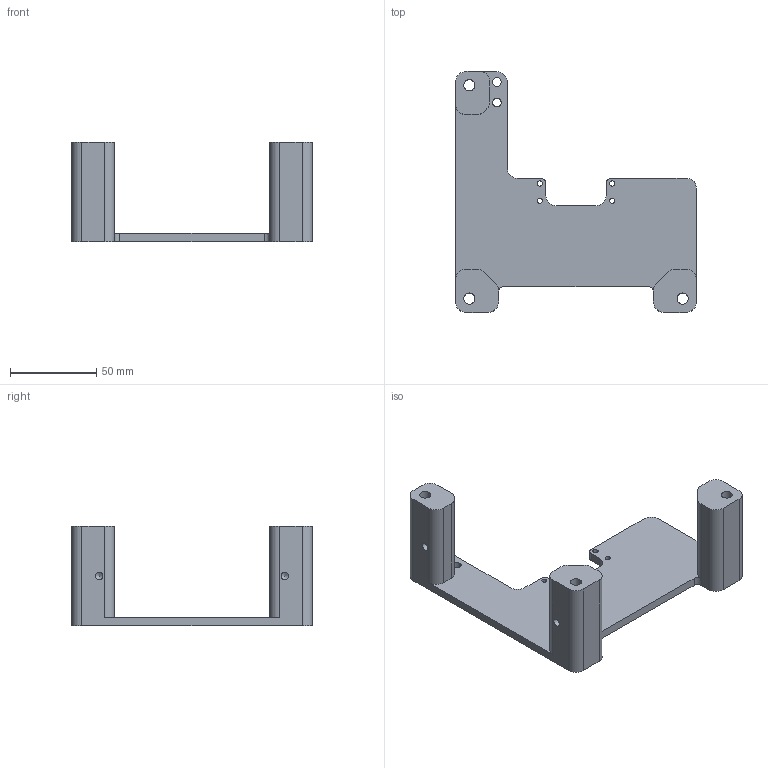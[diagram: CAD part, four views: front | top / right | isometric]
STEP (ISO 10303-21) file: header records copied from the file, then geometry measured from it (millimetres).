
FILE_DESCRIPTION(/* description */ (''),/* implementation_level */ '2;1');
FILE_NAME(/* name */ 'C:\Users\felldings\Documents\Inventor\fabacademy-final\wheel_holder.step',/* time_stamp */ '2018-06-09T14:54:45+02:00',/* author */ ('felldings'),/* organization */ (''),/* preprocessor_version */ 'ST-DEVELOPER v17',/* originating_system */ 'Autodesk Inventor 2019',/* authorisation */ '');
FILE_SCHEMA (('AUTOMOTIVE_DESIGN { 1 0 10303 214 3 1 1 }'));
Length unit declared in the file: millimetre
Products named in the file (1): wheel_holder
Bounding box: 140 x 140 x 58 mm (x, y, z)
Volume: 130675.3 mm3; surface area: 41713.7 mm2
Topology: 1 solids, 1 shells, 63 faces, 194 edges, 133 vertices
Faces by surface type: cylinder 35, plane 26, cone 2
Full cylindrical faces by diameter (mm): 3 x4, 4.5 x2, 5 x2, 6.5 x3
Entity records: 2286 total; most frequent: DIRECTION 405, CARTESIAN_POINT 389, ORIENTED_EDGE 384, EDGE_CURVE 192, AXIS2_PLACEMENT_3D 149, VERTEX_POINT 133, LINE 107, VECTOR 107
